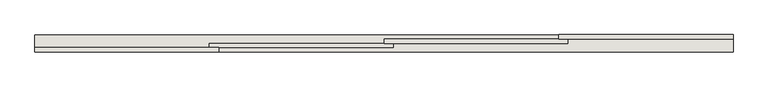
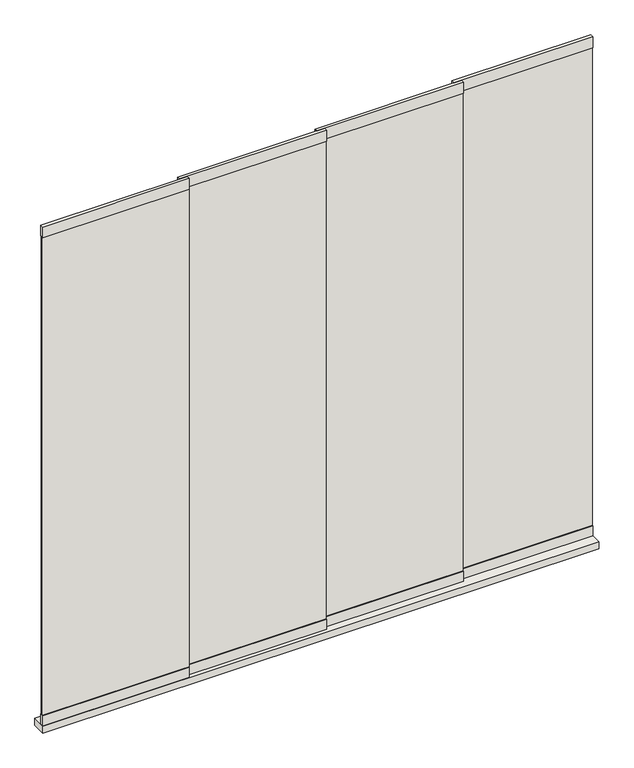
"""IFC4 building model written with IfcOpenShell, lengths in millimetres: wall geometry, Renson_Camargue_Glass_Sliding_Panel : Renson_Camargue_Glass_Sliding_Panel."""

from ifc_helpers import new_model, si_unit, frame, origin, origin_with_axes, place, context, project, spatial, polyline, outline, extrude, source, transform, mapped, element, save


def wall_a274b0d1(model_context):
    return source(origin(), model_context, "Body", "SweptSolid", [
        extrude(outline(polyline([(750.0, 0.0), (750.0, -64.0), (-1850.0, -64.0), (-1850.0, 0.0), (750.0, 0.0)])), origin_with_axes(), (0.0, 0.0, 1.0), 35.0),
        extrude(outline(polyline([(750.0, -3.0), (750.0, -13.0), (100.0, -13.0), (100.0, -3.0), (750.0, -3.0)])), frame((0.0, 0.0, 86.0), z_axis=(0.0, 0.0, 1.0), x_axis=(1.0, 0.0, 0.0)), (0.0, 0.0, 1.0), 2360.0),
        extrude(outline(polyline([(135.0, -19.0), (135.0, -29.0), (-550.0, -29.0), (-550.0, -19.0), (135.0, -19.0)])), frame((0.0, 0.0, 86.0), z_axis=(0.0, 0.0, 1.0), x_axis=(1.0, 0.0, 0.0)), (0.0, 0.0, 1.0), 2360.0),
        extrude(outline(polyline([(-1165.0, -51.0), (-1165.0, -61.0), (-1850.0, -61.0), (-1850.0, -51.0), (-1165.0, -51.0)])), frame((0.0, 0.0, 86.0), z_axis=(0.0, 0.0, 1.0), x_axis=(1.0, 0.0, 0.0)), (0.0, 0.0, 1.0), 2360.0),
        extrude(outline(polyline([(-1165.0, -48.0), (-1165.0, -64.0), (-1850.0, -64.0), (-1850.0, -48.0), (-1165.0, -48.0)])), frame((0.0, 0.0, 2446.0), z_axis=(0.0, 0.0, 1.0), x_axis=(1.0, 0.0, 0.0)), (0.0, 0.0, 1.0), 54.0),
        extrude(outline(polyline([(-1165.0, -48.0), (-1165.0, -64.0), (-1850.0, -64.0), (-1850.0, -48.0), (-1165.0, -48.0)])), frame((0.0, 0.0, 35.0), z_axis=(0.0, 0.0, 1.0), x_axis=(1.0, 0.0, 0.0)), (0.0, 0.0, 1.0), 51.0),
        extrude(outline(polyline([(-515.0, -35.0), (-515.0, -45.0), (-1200.0, -45.0), (-1200.0, -35.0), (-515.0, -35.0)])), frame((0.0, 0.0, 86.0), z_axis=(0.0, 0.0, 1.0), x_axis=(1.0, 0.0, 0.0)), (0.0, 0.0, 1.0), 2360.0),
        extrude(outline(polyline([(750.0, 0.0), (750.0, -16.0), (100.0, -16.0), (100.0, 0.0), (750.0, 0.0)])), frame((0.0, 0.0, 2446.0), z_axis=(0.0, 0.0, 1.0), x_axis=(1.0, 0.0, 0.0)), (0.0, 0.0, 1.0), 54.0),
        extrude(outline(polyline([(135.0, -16.0), (135.0, -32.0), (-550.0, -32.0), (-550.0, -16.0), (135.0, -16.0)])), frame((0.0, 0.0, 2446.0), z_axis=(0.0, 0.0, 1.0), x_axis=(1.0, 0.0, 0.0)), (0.0, 0.0, 1.0), 54.0),
        extrude(outline(polyline([(-515.0, -32.0), (-515.0, -48.0), (-1200.0, -48.0), (-1200.0, -32.0), (-515.0, -32.0)])), frame((0.0, 0.0, 2446.0), z_axis=(0.0, 0.0, 1.0), x_axis=(1.0, 0.0, 0.0)), (0.0, 0.0, 1.0), 54.0),
        extrude(outline(polyline([(750.0, 0.0), (750.0, -16.0), (100.0, -16.0), (100.0, 0.0), (750.0, 0.0)])), frame((0.0, 0.0, 35.0), z_axis=(0.0, 0.0, 1.0), x_axis=(1.0, 0.0, 0.0)), (0.0, 0.0, 1.0), 51.0),
        extrude(outline(polyline([(135.0, -16.0), (135.0, -32.0), (-550.0, -32.0), (-550.0, -16.0), (135.0, -16.0)])), frame((0.0, 0.0, 35.0), z_axis=(0.0, 0.0, 1.0), x_axis=(1.0, 0.0, 0.0)), (0.0, 0.0, 1.0), 51.0),
        extrude(outline(polyline([(-515.0, -32.0), (-515.0, -48.0), (-1200.0, -48.0), (-1200.0, -32.0), (-515.0, -32.0)])), frame((0.0, 0.0, 35.0), z_axis=(0.0, 0.0, 1.0), x_axis=(1.0, 0.0, 0.0)), (0.0, 0.0, 1.0), 51.0),
    ])


if __name__ == "__main__":
    model = new_model("IFC4")
    model_context = context("Model", 3, world=origin())
    ifc_project = project(units=[si_unit("LENGTHUNIT", "METRE", prefix="MILLI")], contexts=[model_context])
    site = spatial("IfcSite", under=ifc_project)
    building = spatial("IfcBuilding", under=site)
    placement = place(None, origin())
    wall_shape = wall_a274b0d1(model_context)
    element("IfcWall", 1, ObjectType="Renson_Camargue_Glass_Sliding_Panel : Renson_Camargue_Glass_Sliding_Panel", at=placement, inside=building, context=model_context, shape_type="MappedRepresentation", body=[
        mapped(wall_shape, transform((0.0, 0.0, 0.0), x_axis=(1.0, 0.0, 0.0), y_axis=(0.0, 1.0, 0.0), z_axis=(0.0, 0.0, 1.0))),
    ])
    save(model, "model.ifc")
